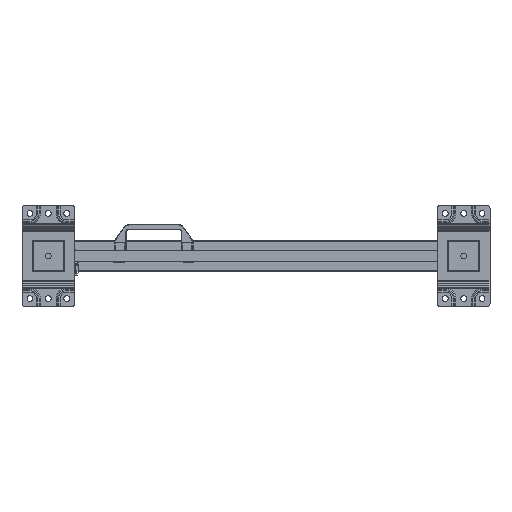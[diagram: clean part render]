
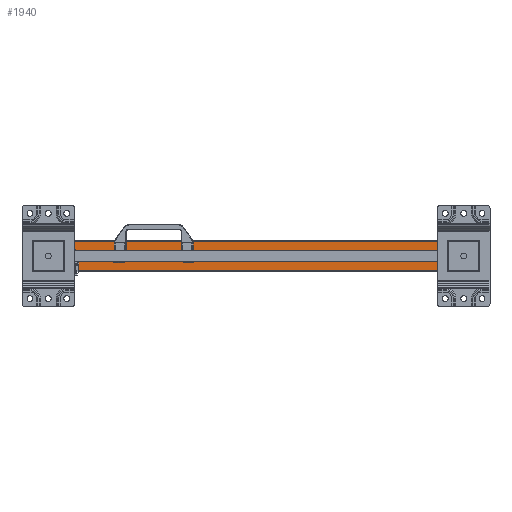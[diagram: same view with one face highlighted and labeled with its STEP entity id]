
A CAD part, front view. The second image highlights one B-rep face of the part: STEP entity #1940.
In plain terms, the highlighted planar face has unit normal (0, -1, 0).
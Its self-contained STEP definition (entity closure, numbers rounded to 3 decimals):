
#1940=ADVANCED_FACE('',(#5741),#5742,.T.);
#5741=FACE_OUTER_BOUND('',#11714,.T.);
#5742=PLANE('',#11715);
#11714=EDGE_LOOP('',(#19231,#19232,#19233,#19234));
#11715=AXIS2_PLACEMENT_3D('',#19235,#19236,#19237);
#19231=ORIENTED_EDGE('',*,*,#36022,.T.);
#19232=ORIENTED_EDGE('',*,*,#36023,.F.);
#19233=ORIENTED_EDGE('',*,*,#36024,.T.);
#19234=ORIENTED_EDGE('',*,*,#36012,.T.);
#19235=CARTESIAN_POINT('',(0.0,2339.0,30.));
#19236=DIRECTION('',(0.,-1.0,0.));
#19237=DIRECTION('',(-1.0,0.,0.0));
#36012=EDGE_CURVE('',#42922,#42920,#42923,.T.);
#36022=EDGE_CURVE('',#42920,#42935,#42936,.T.);
#36023=EDGE_CURVE('',#42937,#42935,#42938,.T.);
#36024=EDGE_CURVE('',#42937,#42922,#42939,.T.);
#42920=VERTEX_POINT('',#53050);
#42922=VERTEX_POINT('',#53053);
#42923=LINE('',#53054,#53055);
#42935=VERTEX_POINT('',#53073);
#42936=LINE('',#53074,#53075);
#42937=VERTEX_POINT('',#53076);
#42938=LINE('',#53077,#53078);
#42939=LINE('',#53079,#53080);
#53050=CARTESIAN_POINT('',(730.0,2339.0,-30.));
#53053=CARTESIAN_POINT('',(0.,2339.0,-30.));
#53054=CARTESIAN_POINT('',(0.,2339.0,-30.));
#53055=VECTOR('',#68364,10.0);
#53073=CARTESIAN_POINT('',(730.0,2339.0,30.));
#53074=CARTESIAN_POINT('',(730.0,2339.0,15.));
#53075=VECTOR('',#68371,1.0);
#53076=CARTESIAN_POINT('',(0.0,2339.0,30.));
#53077=CARTESIAN_POINT('',(0.0,2339.0,30.));
#53078=VECTOR('',#68372,10.0);
#53079=CARTESIAN_POINT('',(0.0,2339.0,30.));
#53080=VECTOR('',#68373,10.0);
#68364=DIRECTION('',(1.0,0.,0.));
#68371=DIRECTION('',(-0.0,0.,1.0));
#68372=DIRECTION('',(1.0,0.,0.));
#68373=DIRECTION('',(0.,0.,-1.0));
